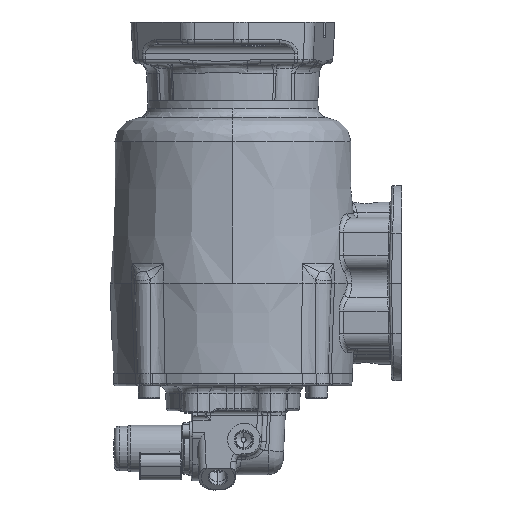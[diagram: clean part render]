
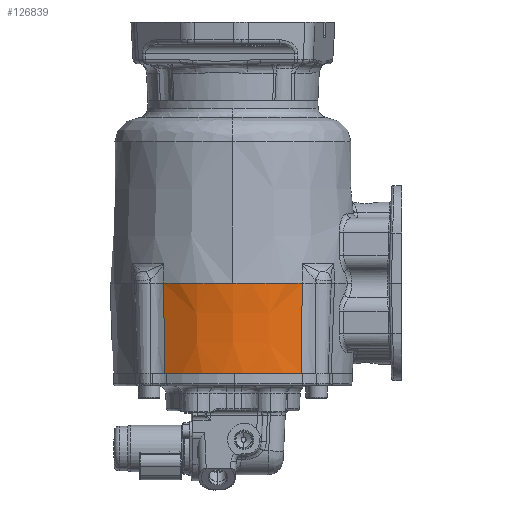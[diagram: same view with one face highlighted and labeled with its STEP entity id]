
A CAD part, left-side view. The second image highlights one B-rep face of the part: STEP entity #126839.
In plain terms, the highlighted conical face has half-angle 2 degrees and reference radius 78.232 mm.
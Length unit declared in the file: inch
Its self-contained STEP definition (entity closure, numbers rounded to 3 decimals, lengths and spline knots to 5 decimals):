
#475 = AXIS2_PLACEMENT_3D ( 'NONE', #183668, #55781, #118035 ) ;
#4004 = CARTESIAN_POINT ( 'NONE',  ( -1.25, 3.3296, 0. ) ) ;
#7257 = CARTESIAN_POINT ( 'NONE',  ( -1.25, 3.3296, 0. ) ) ;
#8177 = DIRECTION ( 'NONE',  ( 0., 0., 1. ) ) ;
#19257 = ORIENTED_EDGE ( 'NONE', *, *, #167259, .T. ) ;
#20992 = CARTESIAN_POINT ( 'NONE',  ( -3.76676, 5.05766, -0.77621 ) ) ;
#25558 = EDGE_CURVE ( 'NONE', #52454, #168306, #152618, .T. ) ;
#26488 = B_SPLINE_CURVE_WITH_KNOTS ( 'NONE', 3,
 ( #148896, #20992, #105957, #61147 ),
 .UNSPECIFIED., .F., .F.,
 ( 4, 4 ),
 ( 0., 1. ),
 .UNSPECIFIED. ) ;
#36162 = EDGE_CURVE ( 'NONE', #168306, #178513, #101769, .T. ) ;
#52087 = CARTESIAN_POINT ( 'NONE',  ( -1.25, 3.3296, -2.2645 ) ) ;
#52454 = VERTEX_POINT ( 'NONE', #155609 ) ;
#54415 = CARTESIAN_POINT ( 'NONE',  ( -3.74025, 1.60953, -1.53104 ) ) ;
#55781 = DIRECTION ( 'NONE',  ( 0., 0., 1. ) ) ;
#60454 = VERTEX_POINT ( 'NONE', #92753 ) ;
#61147 = CARTESIAN_POINT ( 'NONE',  ( -3.71437, 5.04203, -2.2645 ) ) ;
#68406 = CARTESIAN_POINT ( 'NONE',  ( -3.79389, 1.59322, 0. ) ) ;
#70167 = B_SPLINE_CURVE_WITH_KNOTS ( 'NONE', 3,
 ( #155219, #54415, #171040, #68406 ),
 .UNSPECIFIED., .F., .F.,
 ( 4, 4 ),
 ( 0., 1. ),
 .UNSPECIFIED. ) ;
#88966 = DIRECTION ( 'NONE',  ( 1., 0., 0. ) ) ;
#92753 = CARTESIAN_POINT ( 'NONE',  ( -3.71437, 5.04203, -2.2645 ) ) ;
#93958 = ORIENTED_EDGE ( 'NONE', *, *, #36162, .F. ) ;
#96159 = AXIS2_PLACEMENT_3D ( 'NONE', #52087, #112694, #152896 ) ;
#99669 = EDGE_LOOP ( 'NONE', ( #121087, #19257, #144087, #144630, #93958 ) ) ;
#101720 = CARTESIAN_POINT ( 'NONE',  ( -3.79389, 1.59322, 0. ) ) ;
#101769 = CIRCLE ( 'NONE', #475, 3.08 ) ;
#105760 = DIRECTION ( 'NONE',  ( 0., 0., 1. ) ) ;
#105957 = CARTESIAN_POINT ( 'NONE',  ( -3.74025, 5.04967, -1.53104 ) ) ;
#109664 = CARTESIAN_POINT ( 'NONE',  ( -4.33, 3.3296, 0. ) ) ;
#112694 = DIRECTION ( 'NONE',  ( 0., 0., -1. ) ) ;
#113135 = VERTEX_POINT ( 'NONE', #116765 ) ;
#116765 = CARTESIAN_POINT ( 'NONE',  ( -3.71437, 1.61717, -2.2645 ) ) ;
#118035 = DIRECTION ( 'NONE',  ( 1., 0., 0. ) ) ;
#121087 = ORIENTED_EDGE ( 'NONE', *, *, #25558, .F. ) ;
#126839 = ADVANCED_FACE ( 'NONE', ( #148255 ), #170622, .T. ) ;
#128220 = EDGE_CURVE ( 'NONE', #113135, #60454, #152789, .T. ) ;
#144087 = ORIENTED_EDGE ( 'NONE', *, *, #128220, .F. ) ;
#144630 = ORIENTED_EDGE ( 'NONE', *, *, #180951, .T. ) ;
#148255 = FACE_OUTER_BOUND ( 'NONE', #99669, .T. ) ;
#148896 = CARTESIAN_POINT ( 'NONE',  ( -3.79389, 5.06598, 0. ) ) ;
#152618 = CIRCLE ( 'NONE', #176433, 3.08 ) ;
#152789 = CIRCLE ( 'NONE', #96159, 3.00092 ) ;
#152896 = DIRECTION ( 'NONE',  ( 1., 0., 0. ) ) ;
#155219 = CARTESIAN_POINT ( 'NONE',  ( -3.71437, 1.61717, -2.2645 ) ) ;
#155609 = CARTESIAN_POINT ( 'NONE',  ( -3.79389, 5.06598, 0. ) ) ;
#163182 = DIRECTION ( 'NONE',  ( 1., 0., 0. ) ) ;
#164653 = AXIS2_PLACEMENT_3D ( 'NONE', #7257, #8177, #163182 ) ;
#167259 = EDGE_CURVE ( 'NONE', #52454, #60454, #26488, .T. ) ;
#168306 = VERTEX_POINT ( 'NONE', #109664 ) ;
#170622 = CONICAL_SURFACE ( 'NONE', #164653, 3.08, 0.035 ) ;
#171040 = CARTESIAN_POINT ( 'NONE',  ( -3.76676, 1.60154, -0.77621 ) ) ;
#176433 = AXIS2_PLACEMENT_3D ( 'NONE', #4004, #105760, #88966 ) ;
#178513 = VERTEX_POINT ( 'NONE', #101720 ) ;
#180951 = EDGE_CURVE ( 'NONE', #113135, #178513, #70167, .T. ) ;
#183668 = CARTESIAN_POINT ( 'NONE',  ( -1.25, 3.3296, 0. ) ) ;
